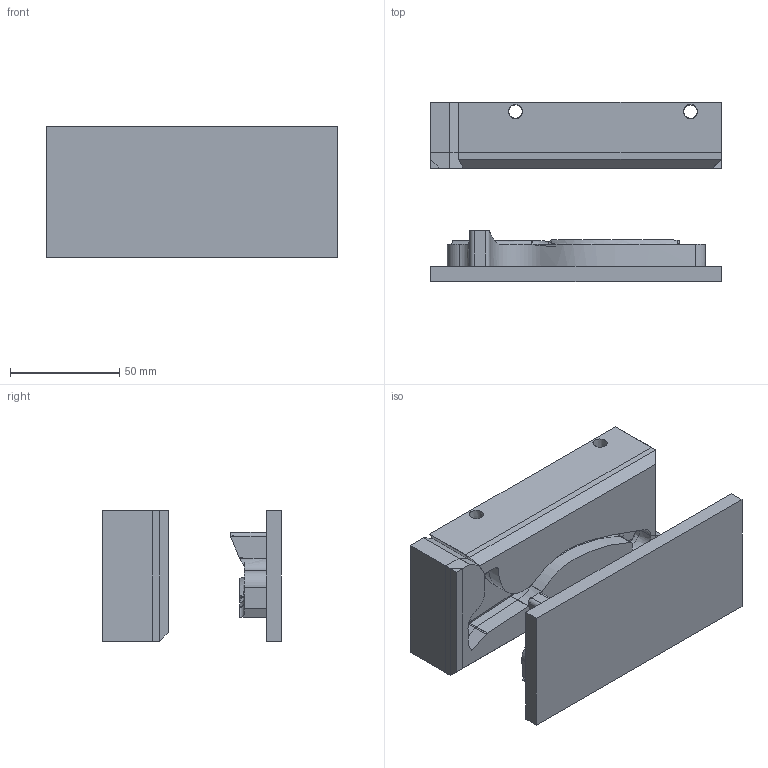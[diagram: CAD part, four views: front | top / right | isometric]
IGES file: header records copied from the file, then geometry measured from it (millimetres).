
Global section: file name: brake_lever_compression_mould; native system: unknown; preprocessor: unknown; author: unknown; organization: unknown; date: 20211210.085657; units: millimetre
Bounding box: 133.36 x 82 x 60 mm (x, y, z)
Volume: 388010.4 mm3; surface area: 92643.2 mm2
Topology: 6 solids, 6 shells, 285 faces, 755 edges, 478 vertices
Faces by surface type: bspline 285
